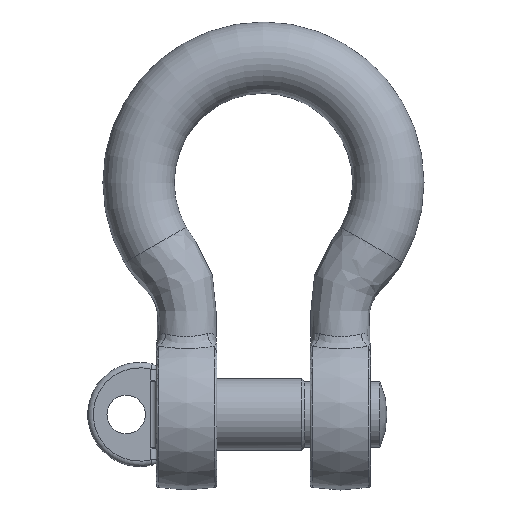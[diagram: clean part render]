
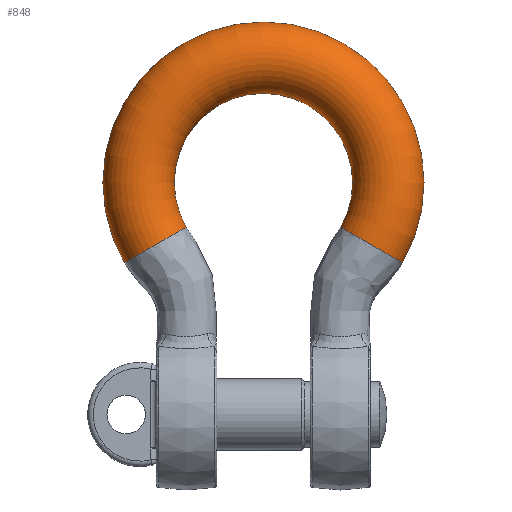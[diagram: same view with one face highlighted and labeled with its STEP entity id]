
A CAD part, top view. The second image highlights one B-rep face of the part: STEP entity #848.
In plain terms, the highlighted toroidal (fillet/blend) face has major radius 45.5 mm and minor radius 13 mm.
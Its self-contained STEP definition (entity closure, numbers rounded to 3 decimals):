
#63=TOROIDAL_SURFACE('',#983,45.5,13.);
#136=FACE_OUTER_BOUND('',#193,.T.);
#193=EDGE_LOOP('',(#688,#689,#690,#691,#692,#693));
#306=CIRCLE('',#984,13.);
#307=CIRCLE('',#985,13.);
#308=CIRCLE('',#986,32.5);
#309=CIRCLE('',#987,13.);
#310=CIRCLE('',#988,13.);
#387=VERTEX_POINT('',#2656);
#388=VERTEX_POINT('',#2657);
#389=VERTEX_POINT('',#2660);
#390=VERTEX_POINT('',#2662);
#491=EDGE_CURVE('',#387,#388,#306,.T.);
#492=EDGE_CURVE('',#388,#387,#307,.T.);
#493=EDGE_CURVE('',#388,#389,#308,.T.);
#494=EDGE_CURVE('',#389,#390,#309,.T.);
#495=EDGE_CURVE('',#390,#389,#310,.T.);
#688=ORIENTED_EDGE('',*,*,#491,.F.);
#689=ORIENTED_EDGE('',*,*,#492,.F.);
#690=ORIENTED_EDGE('',*,*,#493,.T.);
#691=ORIENTED_EDGE('',*,*,#494,.T.);
#692=ORIENTED_EDGE('',*,*,#495,.T.);
#693=ORIENTED_EDGE('',*,*,#493,.F.);
#848=ADVANCED_FACE('',(#136),#63,.T.);
#983=AXIS2_PLACEMENT_3D('',#2655,#1154,#1155);
#984=AXIS2_PLACEMENT_3D('',#2658,#1156,#1157);
#985=AXIS2_PLACEMENT_3D('',#2659,#1158,#1159);
#986=AXIS2_PLACEMENT_3D('',#2661,#1160,#1161);
#987=AXIS2_PLACEMENT_3D('',#2663,#1162,#1163);
#988=AXIS2_PLACEMENT_3D('',#2664,#1164,#1165);
#1154=DIRECTION('center_axis',(0.,0.,1.));
#1155=DIRECTION('ref_axis',(0.,1.,0.));
#1156=DIRECTION('center_axis',(0.5,-0.866,0.));
#1157=DIRECTION('ref_axis',(-0.866,-0.5,0.));
#1158=DIRECTION('center_axis',(0.5,-0.866,0.));
#1159=DIRECTION('ref_axis',(-0.866,-0.5,0.));
#1160=DIRECTION('center_axis',(0.,0.,-1.));
#1161=DIRECTION('ref_axis',(0.,1.,0.));
#1162=DIRECTION('center_axis',(0.5,0.866,0.));
#1163=DIRECTION('ref_axis',(0.866,-0.5,0.));
#1164=DIRECTION('center_axis',(0.5,0.866,0.));
#1165=DIRECTION('ref_axis',(0.866,-0.5,0.));
#2655=CARTESIAN_POINT('Origin',(0.,84.5,0.));
#2656=CARTESIAN_POINT('',(-50.662,55.25,0.));
#2657=CARTESIAN_POINT('',(-28.146,68.25,0.));
#2658=CARTESIAN_POINT('Origin',(-39.404,61.75,0.));
#2659=CARTESIAN_POINT('Origin',(-39.404,61.75,0.));
#2660=CARTESIAN_POINT('',(28.146,68.25,0.));
#2661=CARTESIAN_POINT('Origin',(0.,84.5,0.));
#2662=CARTESIAN_POINT('',(50.662,55.25,0.));
#2663=CARTESIAN_POINT('Origin',(39.404,61.75,0.));
#2664=CARTESIAN_POINT('Origin',(39.404,61.75,0.));
